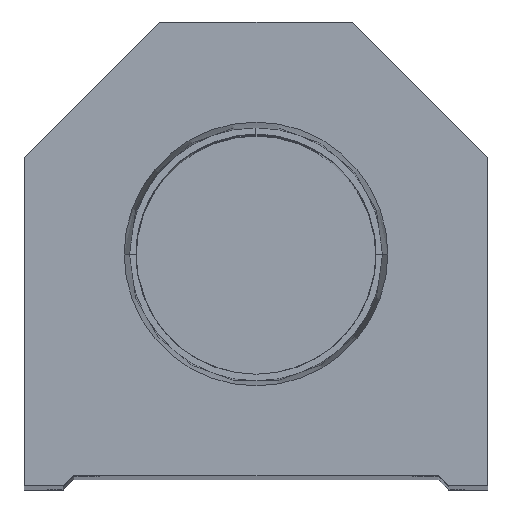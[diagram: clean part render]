
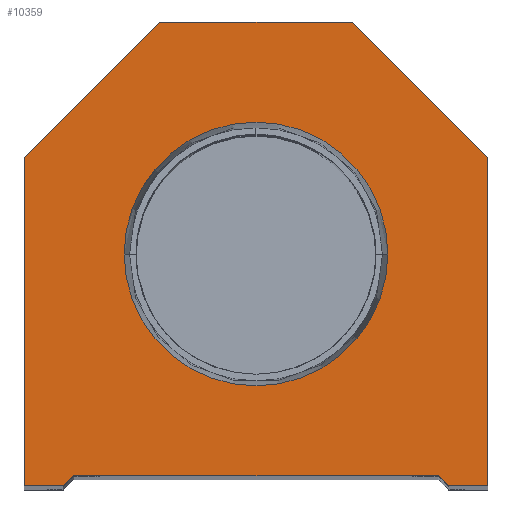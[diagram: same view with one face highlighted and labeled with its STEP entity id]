
A CAD part, top view. The second image highlights one B-rep face of the part: STEP entity #10359.
In plain terms, the highlighted planar face has unit normal (0, 0, 1).
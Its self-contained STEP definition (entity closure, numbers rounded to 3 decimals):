
#78 = DIRECTION ( 'NONE',  ( 1., 0., 0. ) ) ;
#626 = EDGE_CURVE ( 'NONE', #7221, #12935, #6723, .T. ) ;
#646 = PLANE ( 'NONE',  #14766 ) ;
#737 = LINE ( 'NONE', #21199, #14098 ) ;
#976 = EDGE_CURVE ( 'NONE', #7114, #20053, #13349, .T. ) ;
#1152 = EDGE_CURVE ( 'NONE', #15728, #3340, #737, .T. ) ;
#1155 = CIRCLE ( 'NONE', #7338, 12.647 ) ;
#1390 = VECTOR ( 'NONE', #78, 1000. ) ;
#1852 = VERTEX_POINT ( 'NONE', #8164 ) ;
#2001 = EDGE_CURVE ( 'NONE', #20053, #20026, #11194, .T. ) ;
#2227 = FACE_BOUND ( 'NONE', #15246, .T. ) ;
#2915 = CARTESIAN_POINT ( 'NONE',  ( 22.25, 31.5, 0. ) ) ;
#2989 = DIRECTION ( 'NONE',  ( 0., -1., 0. ) ) ;
#3340 = VERTEX_POINT ( 'NONE', #12356 ) ;
#3410 = ORIENTED_EDGE ( 'NONE', *, *, #19261, .T. ) ;
#3557 = DIRECTION ( 'NONE',  ( 0.707, -0.707, 0. ) ) ;
#3596 = CARTESIAN_POINT ( 'NONE',  ( 18.5, 0., 0. ) ) ;
#4059 = ORIENTED_EDGE ( 'NONE', *, *, #5453, .T. ) ;
#4251 = DIRECTION ( 'NONE',  ( 0., 0., 1. ) ) ;
#5222 = VECTOR ( 'NONE', #9375, 1000. ) ;
#5234 = CARTESIAN_POINT ( 'NONE',  ( -17.5, 1., 0. ) ) ;
#5453 = EDGE_CURVE ( 'NONE', #23755, #7114, #16537, .T. ) ;
#5751 = ORIENTED_EDGE ( 'NONE', *, *, #6718, .T. ) ;
#6195 = EDGE_CURVE ( 'NONE', #9347, #1852, #22424, .T. ) ;
#6718 = EDGE_CURVE ( 'NONE', #23384, #15728, #17622, .T. ) ;
#6723 = LINE ( 'NONE', #12078, #22980 ) ;
#6731 = DIRECTION ( 'NONE',  ( 0.707, 0.707, 0. ) ) ;
#6938 = CARTESIAN_POINT ( 'NONE',  ( 0., 22.25, 0. ) ) ;
#6945 = ORIENTED_EDGE ( 'NONE', *, *, #6195, .F. ) ;
#6965 = EDGE_CURVE ( 'NONE', #1852, #9347, #1155, .T. ) ;
#7114 = VERTEX_POINT ( 'NONE', #22716 ) ;
#7221 = VERTEX_POINT ( 'NONE', #11047 ) ;
#7338 = AXIS2_PLACEMENT_3D ( 'NONE', #6938, #16308, #14363 ) ;
#8164 = CARTESIAN_POINT ( 'NONE',  ( 12.647, 22.25, 0. ) ) ;
#8269 = EDGE_CURVE ( 'NONE', #3340, #7221, #12119, .T. ) ;
#8321 = ORIENTED_EDGE ( 'NONE', *, *, #1152, .T. ) ;
#8774 = VECTOR ( 'NONE', #22908, 1000. ) ;
#9005 = LINE ( 'NONE', #14960, #1390 ) ;
#9347 = VERTEX_POINT ( 'NONE', #14115 ) ;
#9375 = DIRECTION ( 'NONE',  ( 1., 0., 0. ) ) ;
#9605 = FACE_OUTER_BOUND ( 'NONE', #20292, .T. ) ;
#9700 = DIRECTION ( 'NONE',  ( -1., 0., 0. ) ) ;
#10269 = CARTESIAN_POINT ( 'NONE',  ( -17.5, 1., 0. ) ) ;
#10359 = ADVANCED_FACE ( 'NONE', ( #2227, #9605 ), #646, .T. ) ;
#10586 = VECTOR ( 'NONE', #3557, 1000. ) ;
#10694 = DIRECTION ( 'NONE',  ( 1., 0., 0. ) ) ;
#10742 = ORIENTED_EDGE ( 'NONE', *, *, #2001, .T. ) ;
#10765 = VERTEX_POINT ( 'NONE', #12108 ) ;
#10975 = CARTESIAN_POINT ( 'NONE',  ( 9.25, 44.5, 0. ) ) ;
#11047 = CARTESIAN_POINT ( 'NONE',  ( -22.25, 31.5, 0. ) ) ;
#11194 = LINE ( 'NONE', #19931, #5222 ) ;
#11313 = DIRECTION ( 'NONE',  ( 1., 0., 0. ) ) ;
#11959 = AXIS2_PLACEMENT_3D ( 'NONE', #15911, #23197, #10694 ) ;
#12078 = CARTESIAN_POINT ( 'NONE',  ( -22.25, 0., 0. ) ) ;
#12108 = CARTESIAN_POINT ( 'NONE',  ( -18.5, 0., 0. ) ) ;
#12119 = LINE ( 'NONE', #21093, #17091 ) ;
#12356 = CARTESIAN_POINT ( 'NONE',  ( -9.25, 44.5, 0. ) ) ;
#12825 = ORIENTED_EDGE ( 'NONE', *, *, #19879, .T. ) ;
#12935 = VERTEX_POINT ( 'NONE', #14744 ) ;
#13349 = LINE ( 'NONE', #20289, #10586 ) ;
#13546 = VECTOR ( 'NONE', #21397, 1000. ) ;
#14010 = CARTESIAN_POINT ( 'NONE',  ( 22.25, 31.5, 0. ) ) ;
#14098 = VECTOR ( 'NONE', #9700, 1000. ) ;
#14115 = CARTESIAN_POINT ( 'NONE',  ( -12.647, 22.25, 0. ) ) ;
#14363 = DIRECTION ( 'NONE',  ( 1., 0., 0. ) ) ;
#14744 = CARTESIAN_POINT ( 'NONE',  ( -22.25, 0., 0. ) ) ;
#14766 = AXIS2_PLACEMENT_3D ( 'NONE', #17012, #4251, #11313 ) ;
#14814 = ORIENTED_EDGE ( 'NONE', *, *, #976, .T. ) ;
#14960 = CARTESIAN_POINT ( 'NONE',  ( -17.5, 0., 0. ) ) ;
#15198 = ORIENTED_EDGE ( 'NONE', *, *, #6965, .F. ) ;
#15240 = ORIENTED_EDGE ( 'NONE', *, *, #8269, .T. ) ;
#15246 = EDGE_LOOP ( 'NONE', ( #15198, #6945 ) ) ;
#15716 = EDGE_CURVE ( 'NONE', #12935, #10765, #9005, .T. ) ;
#15728 = VERTEX_POINT ( 'NONE', #10975 ) ;
#15729 = LINE ( 'NONE', #19460, #17659 ) ;
#15911 = CARTESIAN_POINT ( 'NONE',  ( 0., 22.25, 0. ) ) ;
#16308 = DIRECTION ( 'NONE',  ( 0., 0., 1. ) ) ;
#16537 = LINE ( 'NONE', #5234, #18898 ) ;
#17012 = CARTESIAN_POINT ( 'NONE',  ( 0., 0., 0. ) ) ;
#17091 = VECTOR ( 'NONE', #17806, 1000. ) ;
#17201 = CARTESIAN_POINT ( 'NONE',  ( 22.25, 0., 0. ) ) ;
#17423 = ORIENTED_EDGE ( 'NONE', *, *, #15716, .T. ) ;
#17622 = LINE ( 'NONE', #14010, #13546 ) ;
#17659 = VECTOR ( 'NONE', #6731, 1000. ) ;
#17806 = DIRECTION ( 'NONE',  ( -0.707, -0.707, 0. ) ) ;
#18898 = VECTOR ( 'NONE', #21993, 1000. ) ;
#19261 = EDGE_CURVE ( 'NONE', #10765, #23755, #15729, .T. ) ;
#19460 = CARTESIAN_POINT ( 'NONE',  ( -9.25, 9.25, 0. ) ) ;
#19879 = EDGE_CURVE ( 'NONE', #20026, #23384, #23135, .T. ) ;
#19931 = CARTESIAN_POINT ( 'NONE',  ( 17.5, 0., 0. ) ) ;
#20026 = VERTEX_POINT ( 'NONE', #20217 ) ;
#20053 = VERTEX_POINT ( 'NONE', #3596 ) ;
#20217 = CARTESIAN_POINT ( 'NONE',  ( 22.25, 0., 0. ) ) ;
#20289 = CARTESIAN_POINT ( 'NONE',  ( 9.25, 9.25, 0. ) ) ;
#20292 = EDGE_LOOP ( 'NONE', ( #17423, #3410, #4059, #14814, #10742, #12825, #5751, #8321, #15240, #20586 ) ) ;
#20586 = ORIENTED_EDGE ( 'NONE', *, *, #626, .T. ) ;
#21093 = CARTESIAN_POINT ( 'NONE',  ( -22.25, 31.5, 0. ) ) ;
#21199 = CARTESIAN_POINT ( 'NONE',  ( 9.25, 44.5, 0. ) ) ;
#21397 = DIRECTION ( 'NONE',  ( -0.707, 0.707, 0. ) ) ;
#21993 = DIRECTION ( 'NONE',  ( 1., 0., 0. ) ) ;
#22424 = CIRCLE ( 'NONE', #11959, 12.647 ) ;
#22716 = CARTESIAN_POINT ( 'NONE',  ( 17.5, 1., 0. ) ) ;
#22908 = DIRECTION ( 'NONE',  ( 0., 1., 0. ) ) ;
#22980 = VECTOR ( 'NONE', #2989, 1000. ) ;
#23135 = LINE ( 'NONE', #17201, #8774 ) ;
#23197 = DIRECTION ( 'NONE',  ( 0., 0., 1. ) ) ;
#23384 = VERTEX_POINT ( 'NONE', #2915 ) ;
#23755 = VERTEX_POINT ( 'NONE', #10269 ) ;
